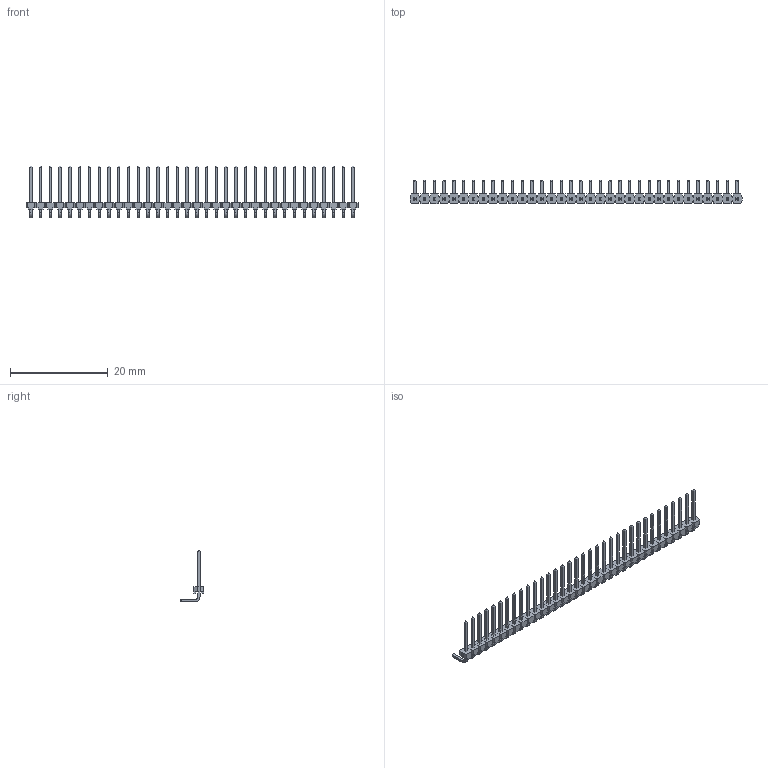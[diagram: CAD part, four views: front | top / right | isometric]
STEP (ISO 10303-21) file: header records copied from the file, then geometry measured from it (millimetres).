
FILE_DESCRIPTION(/* description */ (''),/* implementation_level */ '2;1');
FILE_NAME(/* name */ '951134-7722-AR',/* time_stamp */ '2007-03-13T09:43:35+01:00',/* author */ (''),/* organization */ (''),/* preprocessor_version */ 'ST-DEVELOPER v9',/* originating_system */ 'UGS - NX 4.0',/* authorisation */ '');
FILE_SCHEMA (('AUTOMOTIVE_DESIGN { 1 0 10303 214 1 1 1 1 }'));
Length unit declared in the file: millimetre
Products named in the file (1): 951134-7722-AR
Bounding box: 68 x 4.8 x 10.65 mm (x, y, z)
Volume: 254.6 mm3; surface area: 1386.1 mm2
Topology: 1 solids, 1 shells, 1228 faces, 3202 edges, 2044 vertices
Faces by surface type: plane 1024, cylinder 204
Entity records: 36766 total; most frequent: CARTESIAN_POINT 6475, ORIENTED_EDGE 6404, DIRECTION 5932, EDGE_CURVE 3202, LINE 2930, VECTOR 2930, VERTEX_POINT 2044, AXIS2_PLACEMENT_3D 1501
